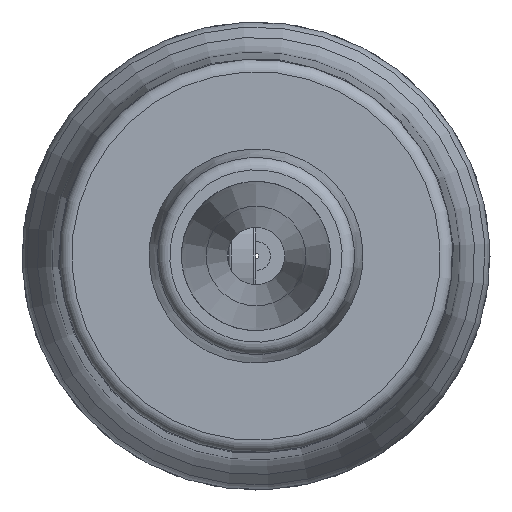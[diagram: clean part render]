
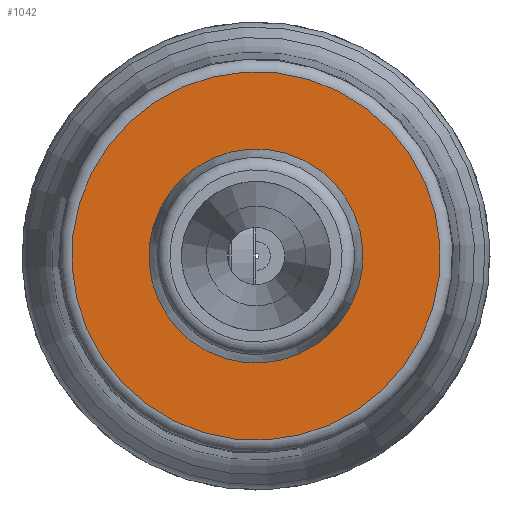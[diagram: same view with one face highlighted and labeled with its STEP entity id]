
A CAD part, left-side view. The second image highlights one B-rep face of the part: STEP entity #1042.
In plain terms, the highlighted planar face has unit normal (-1, 0, 0) as drawn and (1, 0, 0) by its records, which use the part's own axes.
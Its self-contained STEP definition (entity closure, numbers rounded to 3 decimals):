
#1042 = ADVANCED_FACE( '', ( #2294, #2295 ), #2296, .F. );
#2294 = FACE_OUTER_BOUND( '', #4486, .T. );
#2295 = FACE_BOUND( '', #4487, .T. );
#2296 = PLANE( '', #4488 );
#4486 = EDGE_LOOP( '', ( #7299 ) );
#4487 = EDGE_LOOP( '', ( #7300 ) );
#4488 = AXIS2_PLACEMENT_3D( '', #7301, #7302, #7303 );
#7299 = ORIENTED_EDGE( '', *, *, #8190, .F. );
#7300 = ORIENTED_EDGE( '', *, *, #9104, .T. );
#7301 = CARTESIAN_POINT( '', ( -0.61, 0., 4. ) );
#7302 = DIRECTION( '', ( -1., 0., 0. ) );
#7303 = DIRECTION( '', ( 0., 0., 1. ) );
#8190 = EDGE_CURVE( '', #9306, #9306, #9307, .T. );
#9104 = EDGE_CURVE( '', #10696, #10696, #10697, .T. );
#9306 = VERTEX_POINT( '', #10926 );
#9307 = CIRCLE( '', #10927, 7.4 );
#10696 = VERTEX_POINT( '', #13457 );
#10697 = CIRCLE( '', #13458, 4. );
#10926 = CARTESIAN_POINT( '', ( -0.61, 0., 7.4 ) );
#10927 = AXIS2_PLACEMENT_3D( '', #13718, #13719, #13720 );
#13457 = CARTESIAN_POINT( '', ( -0.61, 0., 4. ) );
#13458 = AXIS2_PLACEMENT_3D( '', #15097, #15098, #15099 );
#13718 = CARTESIAN_POINT( '', ( -0.61, 0., 0. ) );
#13719 = DIRECTION( '', ( -1., 0., 0. ) );
#13720 = DIRECTION( '', ( 0., 0., 1. ) );
#15097 = CARTESIAN_POINT( '', ( -0.61, 0., 0. ) );
#15098 = DIRECTION( '', ( -1., 0., 0. ) );
#15099 = DIRECTION( '', ( 0., 0., 1. ) );
